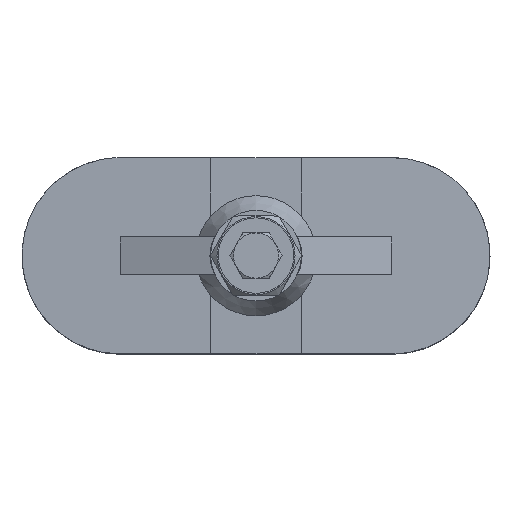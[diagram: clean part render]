
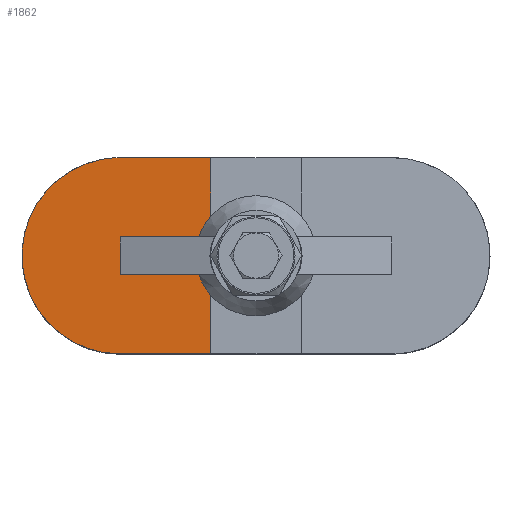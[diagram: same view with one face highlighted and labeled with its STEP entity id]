
A CAD part, top view. The second image highlights one B-rep face of the part: STEP entity #1862.
In plain terms, the highlighted planar face has unit normal (-0.04, 0, 0.999) as drawn and (0.04, 0, 0.999) by its records, which use the part's own axes.
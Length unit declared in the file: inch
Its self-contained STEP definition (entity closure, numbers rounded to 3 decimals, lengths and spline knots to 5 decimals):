
#85=ELLIPSE($,#2025,0.98155,0.98058);
#86=ELLIPSE($,#2026,1.6263,1.625);
#87=ELLIPSE($,#2027,0.98155,0.98058);
#194=LINE($,#2910,#330);
#199=LINE($,#2926,#335);
#202=LINE($,#2940,#338);
#203=LINE($,#2948,#339);
#204=LINE($,#2950,#340);
#205=LINE($,#2954,#341);
#206=LINE($,#2956,#342);
#330=VECTOR($,#2341,1.30218);
#335=VECTOR($,#2350,0.625);
#338=VECTOR($,#2359,1.30218);
#339=VECTOR($,#2364,0.971);
#340=VECTOR($,#2365,1.5012);
#341=VECTOR($,#2368,1.5012);
#342=VECTOR($,#2369,0.971);
#444=PLANE($,#2024);
#576=FACE_OUTER_BOUND($,#709,.T.);
#709=EDGE_LOOP($,(#1460,#1461,#1462,#1463,#1464,#1465,#1466,#1467,#1468,
#1469));
#932=VERTEX_POINT($,#2908);
#933=VERTEX_POINT($,#2909);
#939=VERTEX_POINT($,#2924);
#941=VERTEX_POINT($,#2939);
#942=VERTEX_POINT($,#2945);
#943=VERTEX_POINT($,#2947);
#944=VERTEX_POINT($,#2949);
#945=VERTEX_POINT($,#2951);
#946=VERTEX_POINT($,#2953);
#947=VERTEX_POINT($,#2955);
#1122=EDGE_CURVE($,#932,#933,#194,.T.);
#1129=EDGE_CURVE($,#933,#939,#199,.T.);
#1134=EDGE_CURVE($,#939,#941,#202,.T.);
#1136=EDGE_CURVE($,#941,#942,#85,.T.);
#1137=EDGE_CURVE($,#943,#942,#203,.T.);
#1138=EDGE_CURVE($,#944,#943,#204,.T.);
#1139=EDGE_CURVE($,#945,#944,#86,.T.);
#1140=EDGE_CURVE($,#946,#945,#205,.T.);
#1141=EDGE_CURVE($,#947,#946,#206,.T.);
#1142=EDGE_CURVE($,#947,#932,#87,.T.);
#1460=ORIENTED_EDGE($,*,*,#1122,.T.);
#1461=ORIENTED_EDGE($,*,*,#1129,.T.);
#1462=ORIENTED_EDGE($,*,*,#1134,.T.);
#1463=ORIENTED_EDGE($,*,*,#1136,.T.);
#1464=ORIENTED_EDGE($,*,*,#1137,.F.);
#1465=ORIENTED_EDGE($,*,*,#1138,.F.);
#1466=ORIENTED_EDGE($,*,*,#1139,.F.);
#1467=ORIENTED_EDGE($,*,*,#1140,.F.);
#1468=ORIENTED_EDGE($,*,*,#1141,.F.);
#1469=ORIENTED_EDGE($,*,*,#1142,.T.);
#1862=ADVANCED_FACE($,(#576),#444,.F.);
#2024=AXIS2_PLACEMENT_3D($,#2944,#2360,#2361);
#2025=AXIS2_PLACEMENT_3D($,#2946,#2362,#2363);
#2026=AXIS2_PLACEMENT_3D($,#2952,#2366,#2367);
#2027=AXIS2_PLACEMENT_3D($,#2957,#2370,#2371);
#2341=DIRECTION($,(0.999,0.,-0.04));
#2350=DIRECTION($,(0.,-1.,0.));
#2359=DIRECTION($,(-0.999,0.,0.04));
#2360=DIRECTION('center_axis',(-0.04,0.,-0.999));
#2361=DIRECTION('ref_axis',(-0.999,0.,0.04));
#2362=DIRECTION('center_axis',(-0.04,0.,-0.999));
#2363=DIRECTION('ref_axis',(0.999,0.,-0.04));
#2364=DIRECTION($,(0.,1.,0.));
#2365=DIRECTION($,(-0.999,0.,0.04));
#2366=DIRECTION('center_axis',(-0.04,0.,-0.999));
#2367=DIRECTION('ref_axis',(0.999,0.,-0.04));
#2368=DIRECTION($,(0.999,0.,-0.04));
#2369=DIRECTION($,(0.,1.,0.));
#2370=DIRECTION('center_axis',(-0.04,0.,-0.999));
#2371=DIRECTION('ref_axis',(0.999,0.,-0.04));
#2908=CARTESIAN_POINT('',(0.94886,0.3125,0.30455));
#2909=CARTESIAN_POINT('',(2.25,0.3125,0.2525));
#2910=CARTESIAN_POINT($,(1.04898,0.3125,0.30054));
#2924=CARTESIAN_POINT('',(2.25,-0.3125,0.2525));
#2926=CARTESIAN_POINT($,(2.25,0.,0.2525));
#2939=CARTESIAN_POINT('',(0.94886,-0.3125,0.30455));
#2940=CARTESIAN_POINT($,(1.04898,-0.3125,0.30054));
#2944=CARTESIAN_POINT('Origin',(0.75,0.,0.3125));
#2945=CARTESIAN_POINT('',(0.75,-0.654,0.3125));
#2946=CARTESIAN_POINT('Origin',(0.01923,0.,0.34173));
#2947=CARTESIAN_POINT('',(0.75,-1.625,0.3125));
#2948=CARTESIAN_POINT($,(0.75,0.,0.3125));
#2949=CARTESIAN_POINT('',(2.25,-1.625,0.2525));
#2950=CARTESIAN_POINT($,(1.50504,-1.625,0.2823));
#2951=CARTESIAN_POINT('',(2.25,1.625,0.2525));
#2952=CARTESIAN_POINT('Origin',(2.25,0.,0.2525));
#2953=CARTESIAN_POINT('',(0.75,1.625,0.3125));
#2954=CARTESIAN_POINT($,(-0.74136,1.625,0.37215));
#2955=CARTESIAN_POINT('',(0.75,0.654,0.3125));
#2956=CARTESIAN_POINT($,(0.75,0.,0.3125));
#2957=CARTESIAN_POINT('Origin',(0.01923,0.,0.34173));
